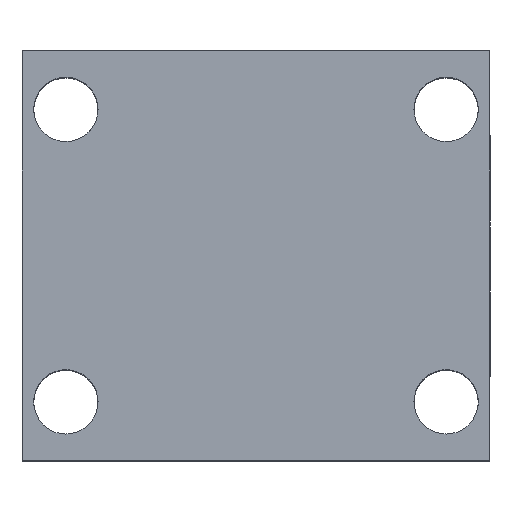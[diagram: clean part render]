
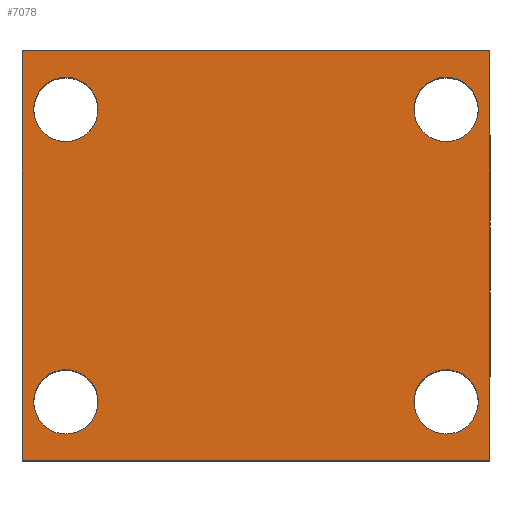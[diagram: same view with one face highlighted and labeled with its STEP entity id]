
A CAD part, top view. The second image highlights one B-rep face of the part: STEP entity #7078.
In plain terms, the highlighted planar face has unit normal (0, 0, 1).
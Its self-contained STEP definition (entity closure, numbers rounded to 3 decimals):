
#230 = FACE_BOUND ( 'NONE', #5290, .T. ) ;
#556 = CIRCLE ( 'NONE', #2474, 11. ) ;
#563 = DIRECTION ( 'NONE',  ( -1., 0., 0. ) ) ;
#685 = CARTESIAN_POINT ( 'NONE',  ( 80., 140., 77.5 ) ) ;
#729 = CIRCLE ( 'NONE', #9661, 11. ) ;
#839 = CIRCLE ( 'NONE', #14227, 11. ) ;
#1005 = EDGE_CURVE ( 'NONE', #10603, #17167, #15466, .T. ) ;
#1015 = DIRECTION ( 'NONE',  ( 0., 0., -1. ) ) ;
#1109 = VERTEX_POINT ( 'NONE', #14076 ) ;
#1600 = DIRECTION ( 'NONE',  ( 0., 0., -1. ) ) ;
#1762 = EDGE_CURVE ( 'NONE', #10264, #15140, #17336, .T. ) ;
#1794 = CARTESIAN_POINT ( 'NONE',  ( 54., 120., 77.5 ) ) ;
#1820 = ORIENTED_EDGE ( 'NONE', *, *, #10483, .T. ) ;
#1892 = ORIENTED_EDGE ( 'NONE', *, *, #13065, .T. ) ;
#1969 = VERTEX_POINT ( 'NONE', #13080 ) ;
#2043 = EDGE_LOOP ( 'NONE', ( #15922, #6033 ) ) ;
#2103 = VECTOR ( 'NONE', #4562, 1000. ) ;
#2400 = ORIENTED_EDGE ( 'NONE', *, *, #15937, .T. ) ;
#2474 = AXIS2_PLACEMENT_3D ( 'NONE', #9582, #1600, #10858 ) ;
#2497 = EDGE_LOOP ( 'NONE', ( #10783, #16584, #2635, #2400 ) ) ;
#2635 = ORIENTED_EDGE ( 'NONE', *, *, #8872, .F. ) ;
#3349 = EDGE_LOOP ( 'NONE', ( #13464, #1820 ) ) ;
#3580 = VERTEX_POINT ( 'NONE', #12056 ) ;
#3599 = FACE_OUTER_BOUND ( 'NONE', #2497, .T. ) ;
#3699 = VECTOR ( 'NONE', #10061, 1000. ) ;
#3829 = DIRECTION ( 'NONE',  ( 0., 0., -1. ) ) ;
#3850 = CARTESIAN_POINT ( 'NONE',  ( -65., 20., 77.5 ) ) ;
#3896 = CARTESIAN_POINT ( 'NONE',  ( -80., 140., 77.5 ) ) ;
#3922 = VERTEX_POINT ( 'NONE', #12885 ) ;
#4010 = DIRECTION ( 'NONE',  ( -1., 0., 0. ) ) ;
#4137 = CIRCLE ( 'NONE', #8131, 11. ) ;
#4562 = DIRECTION ( 'NONE',  ( 0., -1., 0. ) ) ;
#4637 = CIRCLE ( 'NONE', #13991, 11. ) ;
#4745 = CARTESIAN_POINT ( 'NONE',  ( -65., 120., 77.5 ) ) ;
#5223 = DIRECTION ( 'NONE',  ( -1., 0., 0. ) ) ;
#5290 = EDGE_LOOP ( 'NONE', ( #13962, #1892 ) ) ;
#5297 = CARTESIAN_POINT ( 'NONE',  ( -80., 0., 77.5 ) ) ;
#5376 = EDGE_CURVE ( 'NONE', #1109, #5714, #729, .T. ) ;
#5476 = CARTESIAN_POINT ( 'NONE',  ( -80., 140., 77.5 ) ) ;
#5493 = LINE ( 'NONE', #14508, #11902 ) ;
#5576 = AXIS2_PLACEMENT_3D ( 'NONE', #8112, #3829, #4010 ) ;
#5714 = VERTEX_POINT ( 'NONE', #16498 ) ;
#5808 = CARTESIAN_POINT ( 'NONE',  ( 76., 120., 77.5 ) ) ;
#6033 = ORIENTED_EDGE ( 'NONE', *, *, #9786, .T. ) ;
#6056 = DIRECTION ( 'NONE',  ( -1., 0., 0. ) ) ;
#6216 = CARTESIAN_POINT ( 'NONE',  ( -65., 20., 77.5 ) ) ;
#6762 = DIRECTION ( 'NONE',  ( -1., 0., 0. ) ) ;
#7078 = ADVANCED_FACE ( 'NONE', ( #10521, #7107, #230, #17241, #3599 ), #13244, .F. ) ;
#7107 = FACE_BOUND ( 'NONE', #3349, .T. ) ;
#7162 = AXIS2_PLACEMENT_3D ( 'NONE', #3850, #12966, #5223 ) ;
#7187 = LINE ( 'NONE', #685, #3699 ) ;
#7274 = CARTESIAN_POINT ( 'NONE',  ( -54., 120., 77.5 ) ) ;
#7299 = LINE ( 'NONE', #5297, #11105 ) ;
#7429 = EDGE_CURVE ( 'NONE', #3922, #1969, #7299, .T. ) ;
#7490 = DIRECTION ( 'NONE',  ( -1., 0., 0. ) ) ;
#8112 = CARTESIAN_POINT ( 'NONE',  ( 65., 120., 77.5 ) ) ;
#8131 = AXIS2_PLACEMENT_3D ( 'NONE', #16634, #8635, #563 ) ;
#8635 = DIRECTION ( 'NONE',  ( 0., 0., -1. ) ) ;
#8872 = EDGE_CURVE ( 'NONE', #13812, #16552, #5493, .T. ) ;
#9053 = CARTESIAN_POINT ( 'NONE',  ( 65., 120., 77.5 ) ) ;
#9500 = EDGE_LOOP ( 'NONE', ( #17397, #14906 ) ) ;
#9582 = CARTESIAN_POINT ( 'NONE',  ( 65., 20., 77.5 ) ) ;
#9661 = AXIS2_PLACEMENT_3D ( 'NONE', #6216, #15421, #7490 ) ;
#9786 = EDGE_CURVE ( 'NONE', #15140, #10264, #4637, .T. ) ;
#10061 = DIRECTION ( 'NONE',  ( 0., -1., 0. ) ) ;
#10264 = VERTEX_POINT ( 'NONE', #1794 ) ;
#10350 = DIRECTION ( 'NONE',  ( -1., 0., 0. ) ) ;
#10483 = EDGE_CURVE ( 'NONE', #5714, #1109, #13600, .T. ) ;
#10521 = FACE_BOUND ( 'NONE', #9500, .T. ) ;
#10603 = VERTEX_POINT ( 'NONE', #7274 ) ;
#10624 = EDGE_CURVE ( 'NONE', #17167, #10603, #839, .T. ) ;
#10783 = ORIENTED_EDGE ( 'NONE', *, *, #7429, .T. ) ;
#10858 = DIRECTION ( 'NONE',  ( -1., 0., 0. ) ) ;
#11105 = VECTOR ( 'NONE', #13045, 1000. ) ;
#11398 = CARTESIAN_POINT ( 'NONE',  ( 76., 20., 77.5 ) ) ;
#11902 = VECTOR ( 'NONE', #15867, 1000. ) ;
#11990 = AXIS2_PLACEMENT_3D ( 'NONE', #5476, #14642, #6762 ) ;
#12056 = CARTESIAN_POINT ( 'NONE',  ( 54., 20., 77.5 ) ) ;
#12281 = CARTESIAN_POINT ( 'NONE',  ( -80., 140., 77.5 ) ) ;
#12635 = LINE ( 'NONE', #12281, #2103 ) ;
#12885 = CARTESIAN_POINT ( 'NONE',  ( -80., 0., 77.5 ) ) ;
#12946 = CARTESIAN_POINT ( 'NONE',  ( -65., 120., 77.5 ) ) ;
#12966 = DIRECTION ( 'NONE',  ( 0., 0., -1. ) ) ;
#12968 = DIRECTION ( 'NONE',  ( 0., 0., -1. ) ) ;
#12985 = DIRECTION ( 'NONE',  ( -1., 0., 0. ) ) ;
#13045 = DIRECTION ( 'NONE',  ( 1., 0., 0. ) ) ;
#13065 = EDGE_CURVE ( 'NONE', #14656, #3580, #4137, .T. ) ;
#13080 = CARTESIAN_POINT ( 'NONE',  ( 80., 0., 77.5 ) ) ;
#13125 = EDGE_CURVE ( 'NONE', #16552, #1969, #7187, .T. ) ;
#13244 = PLANE ( 'NONE',  #11990 ) ;
#13445 = EDGE_CURVE ( 'NONE', #3580, #14656, #556, .T. ) ;
#13464 = ORIENTED_EDGE ( 'NONE', *, *, #5376, .T. ) ;
#13600 = CIRCLE ( 'NONE', #7162, 11. ) ;
#13812 = VERTEX_POINT ( 'NONE', #3896 ) ;
#13874 = DIRECTION ( 'NONE',  ( 0., 0., -1. ) ) ;
#13962 = ORIENTED_EDGE ( 'NONE', *, *, #13445, .T. ) ;
#13991 = AXIS2_PLACEMENT_3D ( 'NONE', #9053, #1015, #10350 ) ;
#14076 = CARTESIAN_POINT ( 'NONE',  ( -76., 20., 77.5 ) ) ;
#14227 = AXIS2_PLACEMENT_3D ( 'NONE', #4745, #13874, #6056 ) ;
#14508 = CARTESIAN_POINT ( 'NONE',  ( -80., 140., 77.5 ) ) ;
#14642 = DIRECTION ( 'NONE',  ( 0., 0., -1. ) ) ;
#14656 = VERTEX_POINT ( 'NONE', #11398 ) ;
#14906 = ORIENTED_EDGE ( 'NONE', *, *, #1005, .T. ) ;
#15140 = VERTEX_POINT ( 'NONE', #5808 ) ;
#15421 = DIRECTION ( 'NONE',  ( 0., 0., -1. ) ) ;
#15466 = CIRCLE ( 'NONE', #16827, 11. ) ;
#15867 = DIRECTION ( 'NONE',  ( 1., 0., 0. ) ) ;
#15922 = ORIENTED_EDGE ( 'NONE', *, *, #1762, .T. ) ;
#15937 = EDGE_CURVE ( 'NONE', #13812, #3922, #12635, .T. ) ;
#16498 = CARTESIAN_POINT ( 'NONE',  ( -54., 20., 77.5 ) ) ;
#16552 = VERTEX_POINT ( 'NONE', #17301 ) ;
#16584 = ORIENTED_EDGE ( 'NONE', *, *, #13125, .F. ) ;
#16634 = CARTESIAN_POINT ( 'NONE',  ( 65., 20., 77.5 ) ) ;
#16827 = AXIS2_PLACEMENT_3D ( 'NONE', #12946, #12968, #12985 ) ;
#17031 = CARTESIAN_POINT ( 'NONE',  ( -76., 120., 77.5 ) ) ;
#17167 = VERTEX_POINT ( 'NONE', #17031 ) ;
#17241 = FACE_BOUND ( 'NONE', #2043, .T. ) ;
#17301 = CARTESIAN_POINT ( 'NONE',  ( 80., 140., 77.5 ) ) ;
#17336 = CIRCLE ( 'NONE', #5576, 11. ) ;
#17397 = ORIENTED_EDGE ( 'NONE', *, *, #10624, .T. ) ;
